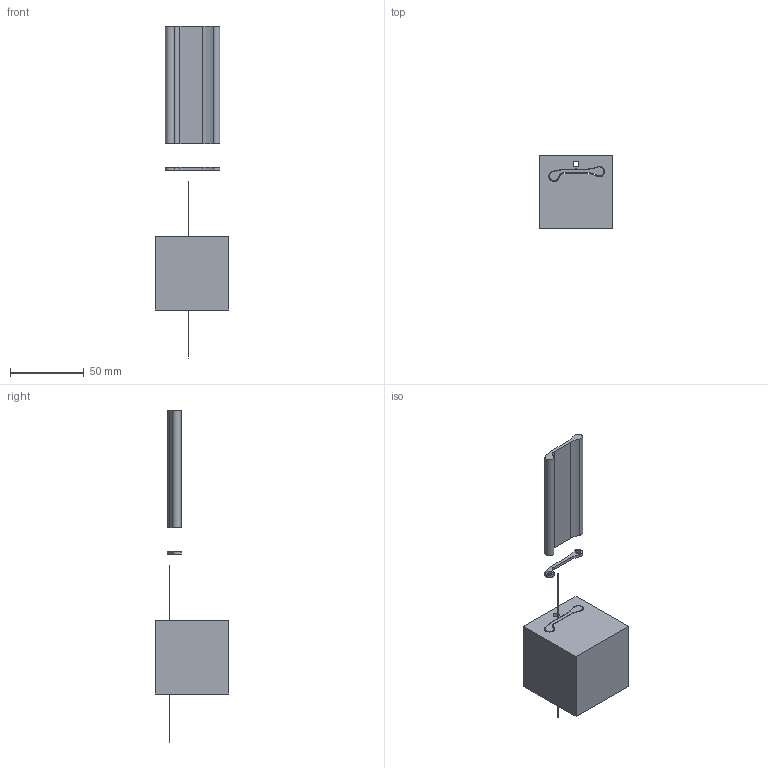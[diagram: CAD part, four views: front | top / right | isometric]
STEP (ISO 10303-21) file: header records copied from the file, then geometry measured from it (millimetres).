
FILE_DESCRIPTION((''),'2;1');
FILE_NAME('E:\Formulaire-2014-01-15 pour envoi\etudeEeFil\Imported Components\EeFil\EeFil.stp','2014-05-24T15:48:24',('DF'),(''),'Autodesk Inventor 2013','Autodesk Inventor 2013','');
FILE_SCHEMA(('AUTOMOTIVE_DESIGN { 1 0 10303 214 1 1 1 1 }'));
Length unit declared in the file: millimetre
Products named in the file (5): EeFil; brut_poinçon; biellette; poinçon; fil
Assembly tree (4 placements, depth 2):
  EeFil
    brut_poinçon
    biellette
    poinçon
    fil
Bounding box: 50 x 50 x 225.68 mm (x, y, z)
Volume: 132173.8 mm3; surface area: 31597.4 mm2
Topology: 4 solids, 4 shells, 58 faces, 150 edges, 100 vertices
Faces by surface type: cylinder 30, plane 28
Full cylindrical faces by diameter (mm): 0.25 x1, 3.566 x2
Entity records: 1985 total; most frequent: DIRECTION 341, CARTESIAN_POINT 314, ORIENTED_EDGE 294, EDGE_CURVE 147, AXIS2_PLACEMENT_3D 127, VERTEX_POINT 100, VECTOR 87, LINE 87
